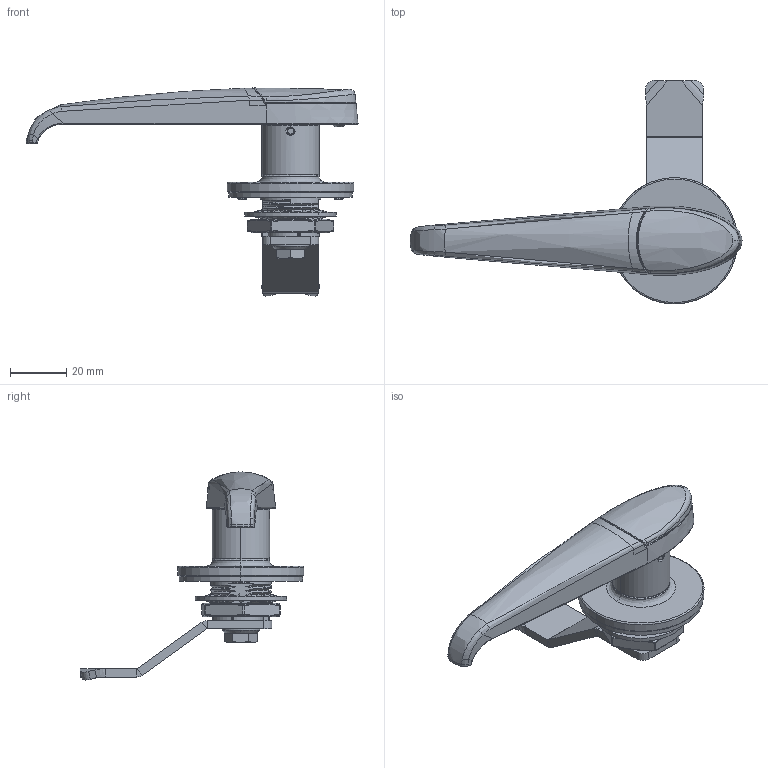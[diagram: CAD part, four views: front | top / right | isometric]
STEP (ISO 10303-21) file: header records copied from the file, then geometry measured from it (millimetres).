
FILE_DESCRIPTION (( 'STEP AP214' ), '1' );
FILE_NAME ('CUYUE B-1300-1.STEP', '2026-06-18T01:32:48', ( '' ), ( '' ), 'SwSTEP 2.0', 'SolidWorks 2020', '' );
FILE_SCHEMA (( 'AUTOMOTIVE_DESIGN' ));
Length unit declared in the file: millimetre
Products named in the file (18): CUYUE B-1300-1; 9300坶郋(MS308-3坶郋); M22喘菜; B-1305揤薯粟銅; B-1301坶え; M3蹟隊; M6蹟隊; 1.7X13密封圈; B-1301隅弇え; 17X2密封圈; B-1301坶釱; M3X6郪磁蹟隊; B-1301邐蘊菜; B-1309裔赽; 1.4X7密封圈; B-1301坶忕; J-M22蹟譫; B-1309忒梟
Assembly tree (17 placements, depth 2):
  CUYUE B-1300-1
    B-1301坶釱
    B-1309忒梟
    B-1301坶忕
    B-1301邐蘊菜
    9300坶郋(MS308-3坶郋)
    B-1309裔赽
    M3蹟隊
    M3X6郪磁蹟隊
    M6蹟隊
    17X2密封圈
    B-1305揤薯粟銅
    B-1301隅弇え
    B-1301坶え
    1.4X7密封圈
    1.7X13密封圈
    J-M22蹟譫
    M22喘菜
Bounding box: 118.29 x 79.8 x 74.12 mm (x, y, z)
Volume: 35634.6 mm3; surface area: 34633.5 mm2
Topology: 32 solids, 32 shells, 1823 faces, 4627 edges, 2884 vertices
Faces by surface type: cylinder 556, plane 524, bspline 480, torus 143, cone 112, sphere 8
Entity records: 118205 total; most frequent: CARTESIAN_POINT 72547, ORIENTED_EDGE 9190, DIRECTION 7011, EDGE_CURVE 4595, VERTEX_POINT 2875, AXIS2_PLACEMENT_3D 2691, EDGE_LOOP 1898, FACE_OUTER_BOUND 1822
